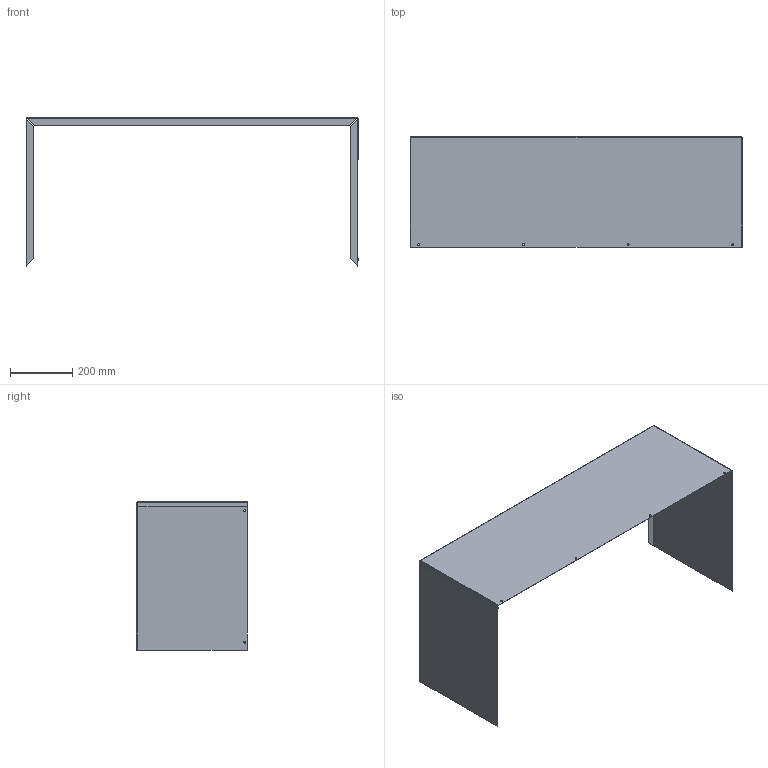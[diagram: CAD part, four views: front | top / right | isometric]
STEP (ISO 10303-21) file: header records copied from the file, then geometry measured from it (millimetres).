
FILE_DESCRIPTION (( 'STEP AP214' ), '1' );
FILE_NAME ('QPBX42_9.STEP', '2016-07-28T12:28:39', ( 'BMC' ), ( 'Bard Manufacturing Co., Inc.' ), 'SwSTEP 2.0', 'SolidWorks 2016', '' );
FILE_SCHEMA (( 'AUTOMOTIVE_DESIGN' ));
Length unit declared in the file: inch
Products named in the file (3): 104-1058; 104-1057; QPBX42_9
Assembly tree (3 placements, depth 2):
  QPBX42_9
    104-1057  x2
    104-1058
Bounding box: 1067.15 x 355.6 x 476.03 mm (x, y, z)
Volume: 743104.3 mm3; surface area: 1545999.1 mm2
Topology: 3 solids, 3 shells, 88 faces, 206 edges, 124 vertices
Faces by surface type: plane 58, cylinder 26, bspline 4
Entity records: 2094 total; most frequent: CARTESIAN_POINT 382, DIRECTION 336, ORIENTED_EDGE 320, EDGE_CURVE 160, AXIS2_PLACEMENT_3D 112, LINE 112, VECTOR 112, VERTEX_POINT 96
